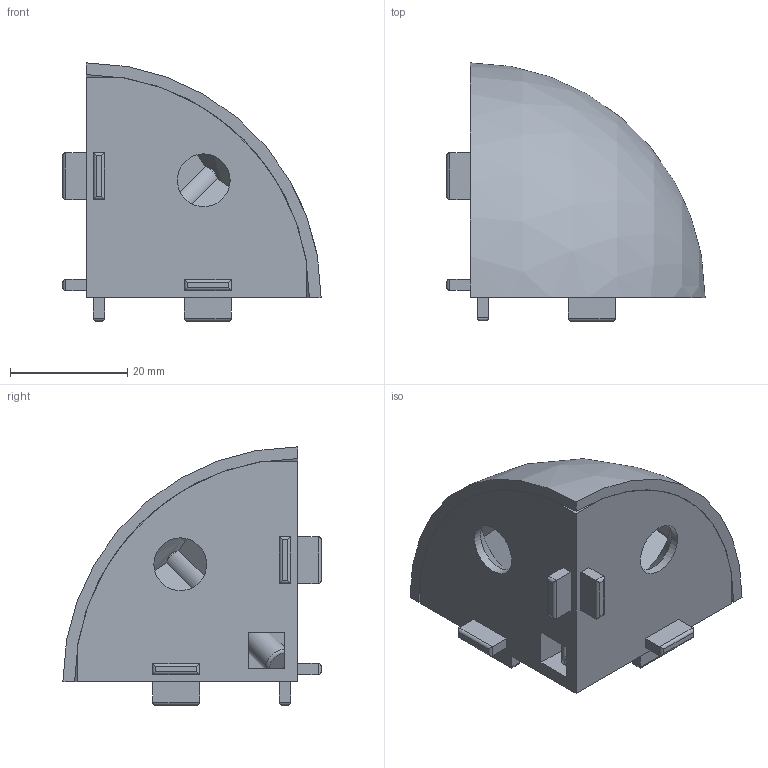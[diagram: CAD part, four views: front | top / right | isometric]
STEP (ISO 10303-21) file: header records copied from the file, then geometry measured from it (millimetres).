
FILE_DESCRIPTION((''),'2;1');
FILE_NAME('E:\catalogue and flyer\Profile catalogue 2015\Accessories JE info\Accessories-JE step file 31MAr16\JE-40CR Joint-8.stp','2016-03-31T15:29:31',('h029'),(''),'Autodesk Inventor 11','Autodesk Inventor 11','');
FILE_SCHEMA(('AUTOMOTIVE_DESIGN { 1 0 10303 214 1 1 1 1 }'));
Length unit declared in the file: millimetre
Products named in the file (6): JE-40CR Joint-8; 3-Way Connection Angle; cover cap for 3 way joint; Cover Cap for 3-Way Connection Angle; pin; side wing
Assembly tree (7 placements, depth 3):
  JE-40CR Joint-8
    3-Way Connection Angle
    cover cap for 3 way joint
      Cover Cap for 3-Way Connection Angle
      pin
      side wing  x3
Bounding box: 44 x 44 x 44 mm (x, y, z)
Volume: 19472.7 mm3; surface area: 14579.6 mm2
Topology: 7 solids, 7 shells, 119 faces, 275 edges, 173 vertices
Faces by surface type: plane 78, cylinder 35, bspline 4, sphere 1, torus 1
Full cylindrical faces by diameter (mm): 2.446 x1, 5 x1, 9 x3
Entity records: 3214 total; most frequent: CARTESIAN_POINT 608, DIRECTION 527, ORIENTED_EDGE 476, EDGE_CURVE 238, VECTOR 181, LINE 181, AXIS2_PLACEMENT_3D 173, VERTEX_POINT 155
